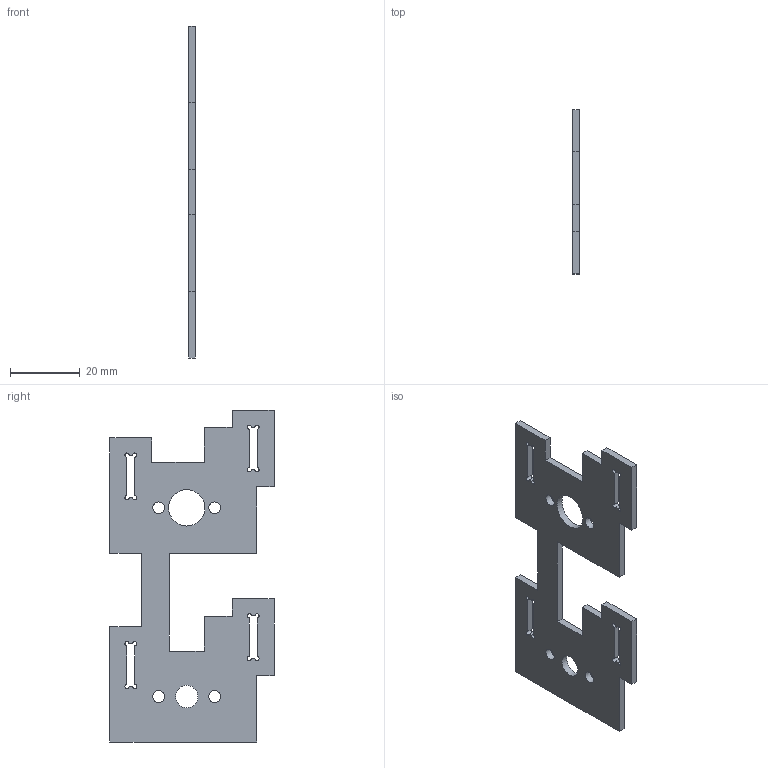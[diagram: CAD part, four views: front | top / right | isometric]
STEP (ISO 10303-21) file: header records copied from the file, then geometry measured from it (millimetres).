
FILE_DESCRIPTION(('Open CASCADE Model'),'2;1');
FILE_NAME('Open CASCADE Shape Model','2026-09-12T16:48:05',('Author'),( 'Open CASCADE'),'Open CASCADE STEP processor 7.9','Open CASCADE 7.9' ,'Unknown');
FILE_SCHEMA(('AUTOMOTIVE_DESIGN { 1 0 10303 214 1 1 1 1 }'));
Length unit declared in the file: millimetre
Products named in the file (1): Open CASCADE STEP translator 7.9 1
Bounding box: 2 x 47 x 95 mm (x, y, z)
Volume: 5741.3 mm3; surface area: 7026.8 mm2
Topology: 1 solids, 1 shells, 66 faces, 192 edges, 128 vertices
Faces by surface type: plane 44, cylinder 22
Full cylindrical faces by diameter (mm): 3.4 x4, 6.4 x1, 10.4 x1
Entity records: 4748 total; most frequent: CARTESIAN_POINT 1145, DIRECTION 600, ORIENTED_EDGE 384, PCURVE 384, DEFINITIONAL_REPRESENTATION 384, LINE 378, VECTOR 378, EDGE_CURVE 192
